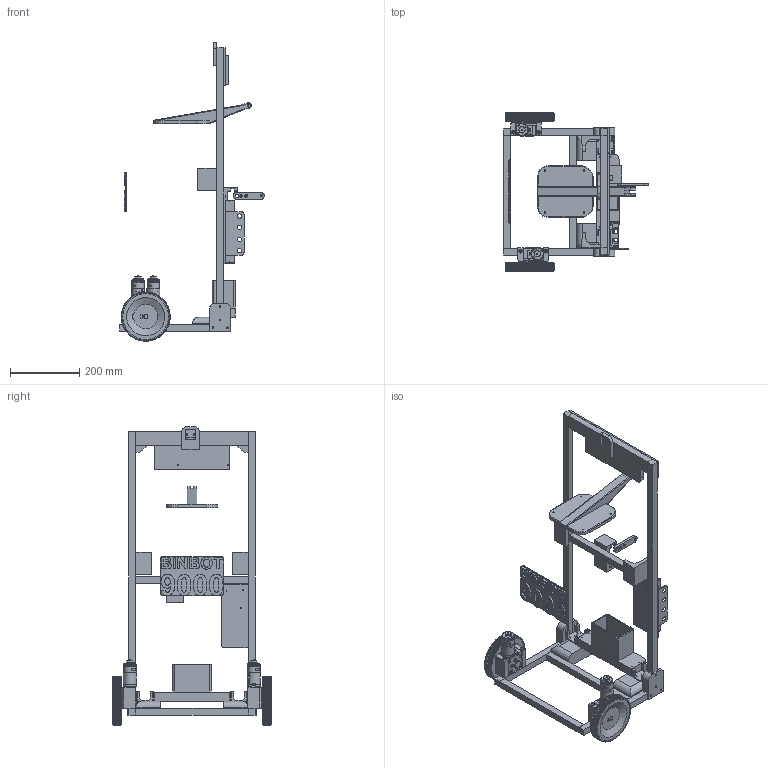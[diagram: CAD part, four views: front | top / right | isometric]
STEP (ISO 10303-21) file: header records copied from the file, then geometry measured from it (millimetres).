
FILE_DESCRIPTION(/* description */ (''),/* implementation_level */ '2;1');
FILE_NAME(/* name */ '0991e157-8e50-4e11-8939-f491cca0c951.stp',/* time_stamp */ '2022-11-25T17:18:50Z',/* author */ (''),/* organization */ (''),/* preprocessor_version */ 'ST-DEVELOPER v19.2',/* originating_system */ 'Autodesk Translation Framework v11.17.0.187',/* authorisation */ '');
FILE_SCHEMA (('AUTOMOTIVE_DESIGN { 1 0 10303 214 3 1 1 }'));
Products named in the file (10): RobotBin; GR-WM2 Standard Shaft 2019 Version v10 v1; WM2 Gearbox v6; GR-WM2 Standard Shaft 2019 Version v10 v1_1; Short Shaft v2; WM2 Gearbox v6_1; M3 Screw v3; M3 Screw Long v2; GR-EP-36 Motor v4; BTS v1
Assembly tree (21 placements, depth 4):
  RobotBin
    GR-WM2 Standard Shaft 2019 Version v10 v1
      Short Shaft v2
      WM2 Gearbox v6
        M3 Screw v3  x4
        M3 Screw Long v2  x2
      GR-EP-36 Motor v4
    GR-WM2 Standard Shaft 2019 Version v10 v1_1
      Short Shaft v2
      WM2 Gearbox v6_1
        M3 Screw v3  x4
        M3 Screw Long v2  x2
      GR-EP-36 Motor v4
    BTS v1
Bounding box: 417 x 458.85 x 862.73 mm (x, y, z)
Volume: 4650422.8 mm3; surface area: 1222053.7 mm2
Topology: 88 solids, 88 shells, 2782 faces, 7426 edges, 4908 vertices
Faces by surface type: plane 1877, cylinder 652, bspline 149, cone 88, torus 12, sphere 4
Full cylindrical faces by diameter (mm): 2.075 x4, 2.5 x2, 2.529 x4, 2.8 x29, 2.927 x12, 3 x6, 3.332 x10, 3.5 x10, 4 x8, 4.032 x6, 4.5 x52, 4.6 x2, 5 x12, 5.5 x4, 6 x3, 6.5 x4, 7 x3, 7.5 x8, 8 x8, 10 x11, 12 x2, 12.4 x2, 13 x4, 15 x2, 18 x4, 22 x8, 24 x8, 30 x2, 34 x4, 36 x2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
Entity records: 78428 total; most frequent: CARTESIAN_POINT 19017, ORIENTED_EDGE 13316, DIRECTION 11034, EDGE_CURVE 6658, VERTEX_POINT 4403, LINE 3862, VECTOR 3862, AXIS2_PLACEMENT_3D 3586
